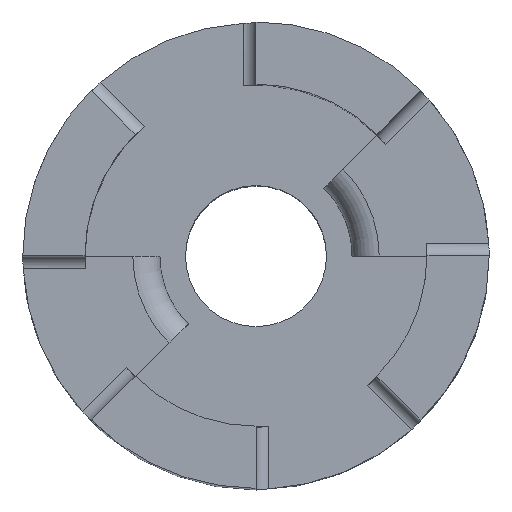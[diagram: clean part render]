
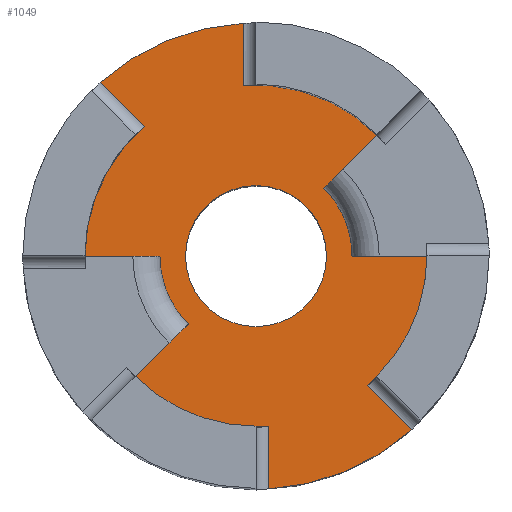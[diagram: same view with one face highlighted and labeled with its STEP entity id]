
A CAD part, top view. The second image highlights one B-rep face of the part: STEP entity #1049.
In plain terms, the highlighted planar face has unit normal (0, 0, 1).
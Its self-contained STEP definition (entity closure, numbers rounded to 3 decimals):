
#17=FACE_BOUND('',#173,.T.);
#62=CIRCLE('',#1142,10.922);
#66=CIRCLE('',#1146,10.922);
#69=CIRCLE('',#1150,3.302);
#70=CIRCLE('',#1157,8.01);
#71=CIRCLE('',#1158,4.5);
#72=CIRCLE('',#1159,8.01);
#73=CIRCLE('',#1160,8.01);
#74=CIRCLE('',#1161,4.5);
#75=CIRCLE('',#1162,8.01);
#117=FACE_OUTER_BOUND('',#172,.T.);
#172=EDGE_LOOP('',(#826,#827,#828,#829,#830,#831,#832,#833,#834,#835,#836,
#837,#838,#839,#840,#841));
#173=EDGE_LOOP('',(#842));
#263=LINE('',#1791,#354);
#266=LINE('',#1809,#357);
#268=LINE('',#1815,#359);
#269=LINE('',#1819,#360);
#270=LINE('',#1822,#361);
#271=LINE('',#1824,#362);
#272=LINE('',#1828,#363);
#273=LINE('',#1832,#364);
#354=VECTOR('',#1368,10.);
#357=VECTOR('',#1375,10.);
#359=VECTOR('',#1381,10.);
#360=VECTOR('',#1384,10.);
#361=VECTOR('',#1387,10.);
#362=VECTOR('',#1388,10.);
#363=VECTOR('',#1391,10.);
#364=VECTOR('',#1394,10.);
#439=VERTEX_POINT('',#1640);
#440=VERTEX_POINT('',#1651);
#451=VERTEX_POINT('',#1700);
#452=VERTEX_POINT('',#1711);
#459=VERTEX_POINT('',#1755);
#463=VERTEX_POINT('',#1778);
#467=VERTEX_POINT('',#1798);
#468=VERTEX_POINT('',#1812);
#469=VERTEX_POINT('',#1814);
#470=VERTEX_POINT('',#1816);
#471=VERTEX_POINT('',#1818);
#472=VERTEX_POINT('',#1820);
#473=VERTEX_POINT('',#1823);
#474=VERTEX_POINT('',#1825);
#475=VERTEX_POINT('',#1827);
#476=VERTEX_POINT('',#1829);
#477=VERTEX_POINT('',#1831);
#564=EDGE_CURVE('',#440,#439,#62,.F.);
#576=EDGE_CURVE('',#452,#451,#66,.F.);
#586=EDGE_CURVE('',#459,#459,#69,.T.);
#594=EDGE_CURVE('',#440,#463,#263,.T.);
#598=EDGE_CURVE('',#467,#439,#266,.T.);
#600=EDGE_CURVE('',#467,#468,#70,.T.);
#601=EDGE_CURVE('',#468,#469,#268,.T.);
#602=EDGE_CURVE('',#470,#469,#71,.T.);
#603=EDGE_CURVE('',#470,#471,#269,.T.);
#604=EDGE_CURVE('',#471,#472,#72,.T.);
#605=EDGE_CURVE('',#452,#472,#270,.T.);
#606=EDGE_CURVE('',#473,#451,#271,.T.);
#607=EDGE_CURVE('',#473,#474,#73,.T.);
#608=EDGE_CURVE('',#474,#475,#272,.T.);
#609=EDGE_CURVE('',#476,#475,#74,.T.);
#610=EDGE_CURVE('',#476,#477,#273,.T.);
#611=EDGE_CURVE('',#477,#463,#75,.T.);
#826=ORIENTED_EDGE('',*,*,#594,.F.);
#827=ORIENTED_EDGE('',*,*,#564,.T.);
#828=ORIENTED_EDGE('',*,*,#598,.F.);
#829=ORIENTED_EDGE('',*,*,#600,.T.);
#830=ORIENTED_EDGE('',*,*,#601,.T.);
#831=ORIENTED_EDGE('',*,*,#602,.F.);
#832=ORIENTED_EDGE('',*,*,#603,.T.);
#833=ORIENTED_EDGE('',*,*,#604,.T.);
#834=ORIENTED_EDGE('',*,*,#605,.F.);
#835=ORIENTED_EDGE('',*,*,#576,.T.);
#836=ORIENTED_EDGE('',*,*,#606,.F.);
#837=ORIENTED_EDGE('',*,*,#607,.T.);
#838=ORIENTED_EDGE('',*,*,#608,.T.);
#839=ORIENTED_EDGE('',*,*,#609,.F.);
#840=ORIENTED_EDGE('',*,*,#610,.T.);
#841=ORIENTED_EDGE('',*,*,#611,.T.);
#842=ORIENTED_EDGE('',*,*,#586,.T.);
#1007=PLANE('',#1156);
#1049=ADVANCED_FACE('',(#117,#17),#1007,.T.);
#1142=AXIS2_PLACEMENT_3D('',#1652,#1331,#1332);
#1146=AXIS2_PLACEMENT_3D('',#1712,#1343,#1344);
#1150=AXIS2_PLACEMENT_3D('',#1757,#1355,#1356);
#1156=AXIS2_PLACEMENT_3D('',#1811,#1377,#1378);
#1157=AXIS2_PLACEMENT_3D('',#1813,#1379,#1380);
#1158=AXIS2_PLACEMENT_3D('',#1817,#1382,#1383);
#1159=AXIS2_PLACEMENT_3D('',#1821,#1385,#1386);
#1160=AXIS2_PLACEMENT_3D('',#1826,#1389,#1390);
#1161=AXIS2_PLACEMENT_3D('',#1830,#1392,#1393);
#1162=AXIS2_PLACEMENT_3D('',#1833,#1395,#1396);
#1331=DIRECTION('center_axis',(0.,0.,-1.));
#1332=DIRECTION('ref_axis',(1.,0.,0.));
#1343=DIRECTION('center_axis',(0.,0.,-1.));
#1344=DIRECTION('ref_axis',(1.,0.,0.));
#1355=DIRECTION('center_axis',(0.,0.,-1.));
#1356=DIRECTION('ref_axis',(-1.,0.,0.));
#1368=DIRECTION('',(0.,-1.,0.));
#1375=DIRECTION('',(-0.707,0.707,0.));
#1377=DIRECTION('center_axis',(0.,0.,1.));
#1378=DIRECTION('ref_axis',(1.,0.,0.));
#1379=DIRECTION('center_axis',(0.,0.,1.));
#1380=DIRECTION('ref_axis',(0.707,-0.707,0.));
#1381=DIRECTION('',(1.,0.,0.));
#1382=DIRECTION('center_axis',(0.,0.,-1.));
#1383=DIRECTION('ref_axis',(1.,0.,0.));
#1384=DIRECTION('',(-0.707,-0.707,0.));
#1385=DIRECTION('center_axis',(0.,0.,1.));
#1386=DIRECTION('ref_axis',(0.707,-0.707,0.));
#1387=DIRECTION('',(0.,1.,0.));
#1388=DIRECTION('',(0.707,-0.707,0.));
#1389=DIRECTION('center_axis',(0.,0.,1.));
#1390=DIRECTION('ref_axis',(-0.707,0.707,0.));
#1391=DIRECTION('',(-1.,0.,0.));
#1392=DIRECTION('center_axis',(0.,0.,-1.));
#1393=DIRECTION('ref_axis',(1.,0.,0.));
#1394=DIRECTION('',(0.707,0.707,0.));
#1395=DIRECTION('center_axis',(0.,0.,1.));
#1396=DIRECTION('ref_axis',(-0.707,0.707,0.));
#1640=CARTESIAN_POINT('',(-7.287,8.136,2.54));
#1651=CARTESIAN_POINT('',(-0.6,10.906,2.54));
#1652=CARTESIAN_POINT('Origin',(0.,0.,2.54));
#1700=CARTESIAN_POINT('',(7.287,-8.136,2.54));
#1711=CARTESIAN_POINT('',(0.6,-10.906,2.54));
#1712=CARTESIAN_POINT('Origin',(0.,0.,2.54));
#1755=CARTESIAN_POINT('',(3.302,0.,2.54));
#1757=CARTESIAN_POINT('Origin',(0.,0.,2.54));
#1778=CARTESIAN_POINT('',(-0.6,7.987,2.54));
#1791=CARTESIAN_POINT('',(-0.6,5.08,2.54));
#1798=CARTESIAN_POINT('',(-5.224,6.072,2.54));
#1809=CARTESIAN_POINT('',(-2.408,3.256,2.54));
#1811=CARTESIAN_POINT('Origin',(0.,0.,
2.54));
#1812=CARTESIAN_POINT('',(-8.01,0.,2.54));
#1813=CARTESIAN_POINT('Origin',(0.,0.,
2.54));
#1814=CARTESIAN_POINT('',(-4.5,0.,2.54));
#1815=CARTESIAN_POINT('',(-1.594,0.,2.54));
#1816=CARTESIAN_POINT('',(-3.182,-3.182,2.54));
#1817=CARTESIAN_POINT('Origin',(0.,0.,2.54));
#1818=CARTESIAN_POINT('',(-5.664,-5.664,2.54));
#1819=CARTESIAN_POINT('',(-2.832,-2.832,2.54));
#1820=CARTESIAN_POINT('',(0.6,-7.987,2.54));
#1821=CARTESIAN_POINT('Origin',(0.,0.,
2.54));
#1822=CARTESIAN_POINT('',(0.6,-5.08,2.54));
#1823=CARTESIAN_POINT('',(5.224,-6.072,2.54));
#1824=CARTESIAN_POINT('',(2.408,-3.256,2.54));
#1825=CARTESIAN_POINT('',(8.01,0.,2.54));
#1826=CARTESIAN_POINT('Origin',(0.,0.,
2.54));
#1827=CARTESIAN_POINT('',(4.5,0.,2.54));
#1828=CARTESIAN_POINT('',(1.594,0.,2.54));
#1829=CARTESIAN_POINT('',(3.182,3.182,2.54));
#1830=CARTESIAN_POINT('Origin',(0.,0.,2.54));
#1831=CARTESIAN_POINT('',(5.664,5.664,2.54));
#1832=CARTESIAN_POINT('',(2.832,2.832,2.54));
#1833=CARTESIAN_POINT('Origin',(0.,0.,
2.54));
